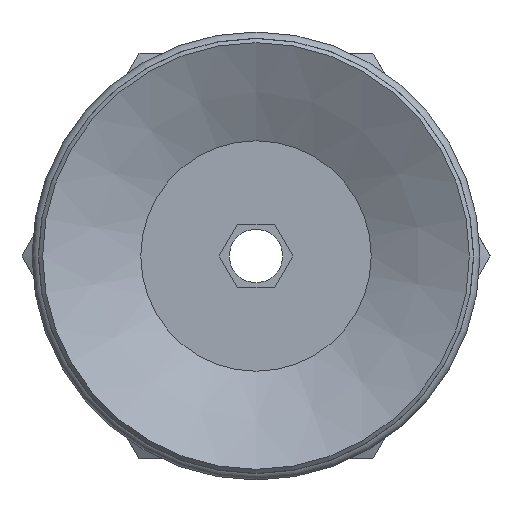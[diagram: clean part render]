
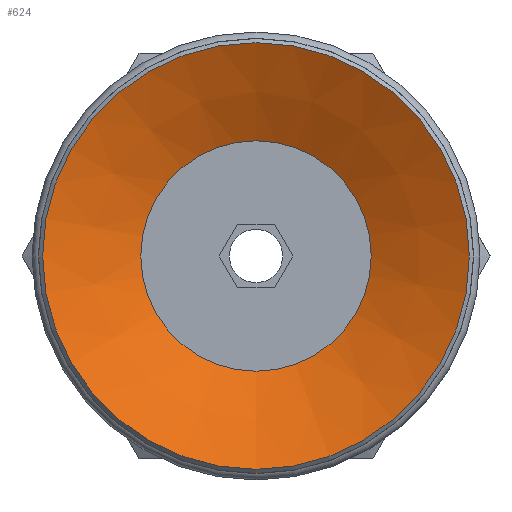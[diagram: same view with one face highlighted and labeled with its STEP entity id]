
A CAD part, front view. The second image highlights one B-rep face of the part: STEP entity #624.
In plain terms, the highlighted conical face has half-angle 63 degrees and reference radius 5.4 mm.
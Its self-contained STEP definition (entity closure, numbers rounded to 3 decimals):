
#624=ADVANCED_FACE('',(#914,#915),#916,.F.);
#914=FACE_BOUND('',#1239,.T.);
#915=FACE_OUTER_BOUND('',#1240,.T.);
#916=CONICAL_SURFACE('',#1241,5.4,1.1);
#1239=EDGE_LOOP('',(#2055));
#1240=EDGE_LOOP('',(#2056));
#1241=AXIS2_PLACEMENT_3D('',#2057,#2058,#2059);
#2055=ORIENTED_EDGE('',*,*,#2392,.F.);
#2056=ORIENTED_EDGE('',*,*,#2397,.T.);
#2057=CARTESIAN_POINT('',(0.0,5.518,0.0));
#2058=DIRECTION('',(-0.0,-1.0,0.));
#2059=DIRECTION('',(0.0,0.,-1.0));
#2392=EDGE_CURVE('',#2781,#2781,#2782,.T.);
#2397=EDGE_CURVE('',#2791,#2791,#2792,.T.);
#2781=VERTEX_POINT('',#3625);
#2782=CIRCLE('',#3626,5.4);
#2791=VERTEX_POINT('',#3635);
#2792=CIRCLE('',#3636,10.0);
#3625=CARTESIAN_POINT('',(0.0,5.518,-5.4));
#3626=AXIS2_PLACEMENT_3D('',#4013,#4014,#4015);
#3635=CARTESIAN_POINT('',(0.0,3.175,-10.0));
#3636=AXIS2_PLACEMENT_3D('',#4028,#4029,#4030);
#4013=CARTESIAN_POINT('',(0.0,5.518,0.0));
#4014=DIRECTION('',(0.0,-1.0,0.));
#4015=DIRECTION('',(0.0,0.,-1.0));
#4028=CARTESIAN_POINT('',(0.0,3.175,0.0));
#4029=DIRECTION('',(0.0,-1.0,0.));
#4030=DIRECTION('',(0.0,0.,-1.0));
